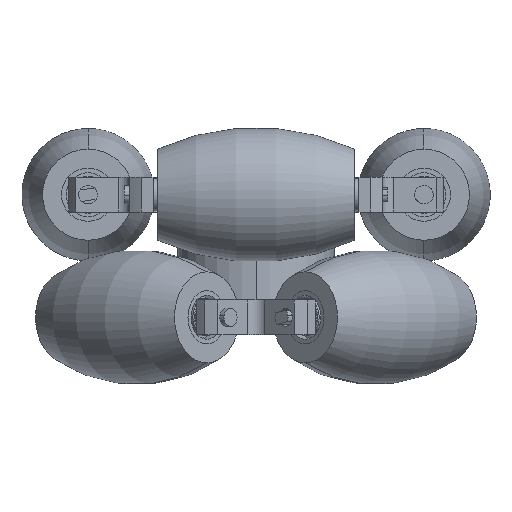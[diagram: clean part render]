
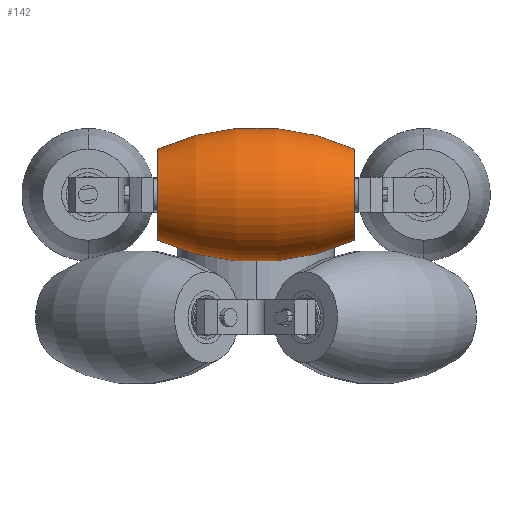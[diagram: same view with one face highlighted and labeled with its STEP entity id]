
A CAD part, front view. The second image highlights one B-rep face of the part: STEP entity #142.
In plain terms, the highlighted toroidal (fillet/blend) face has major radius 72.6 mm and minor radius 101.6 mm.
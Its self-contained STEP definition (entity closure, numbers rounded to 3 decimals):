
#23 = DIRECTION ( 'NONE',  ( -1., 0., 0. ) ) ;
#142 = ADVANCED_FACE ( 'NONE', ( #4589 ), #4369, .T. ) ;
#204 = CIRCLE ( 'NONE', #7567, 19.684 ) ;
#308 = VERTEX_POINT ( 'NONE', #6218 ) ;
#395 = CARTESIAN_POINT ( 'NONE',  ( 42.5, 72.6, -19.684 ) ) ;
#1027 = CARTESIAN_POINT ( 'NONE',  ( 42.5, 72.6, 19.684 ) ) ;
#1076 = CARTESIAN_POINT ( 'NONE',  ( 0., 72.6, 0. ) ) ;
#1777 = AXIS2_PLACEMENT_3D ( 'NONE', #4287, #23, #5018 ) ;
#2215 = AXIS2_PLACEMENT_3D ( 'NONE', #1076, #7501, #8940 ) ;
#2285 = ORIENTED_EDGE ( 'NONE', *, *, #3785, .F. ) ;
#2886 = CARTESIAN_POINT ( 'NONE',  ( 0., 72.6, 72.6 ) ) ;
#2896 = EDGE_LOOP ( 'NONE', ( #8592, #5172, #4738, #2285 ) ) ;
#2898 = AXIS2_PLACEMENT_3D ( 'NONE', #8169, #3877, #8888 ) ;
#3443 = DIRECTION ( 'NONE',  ( -1., 0., 0. ) ) ;
#3624 = DIRECTION ( 'NONE',  ( 0., 0., 1. ) ) ;
#3694 = AXIS2_PLACEMENT_3D ( 'NONE', #2886, #7914, #3624 ) ;
#3785 = EDGE_CURVE ( 'NONE', #4802, #8542, #7334, .T. ) ;
#3877 = DIRECTION ( 'NONE',  ( 0., -1., 0. ) ) ;
#4044 = EDGE_CURVE ( 'NONE', #8542, #308, #7673, .T. ) ;
#4101 = EDGE_CURVE ( 'NONE', #6390, #308, #5539, .T. ) ;
#4287 = CARTESIAN_POINT ( 'NONE',  ( -42.5, 72.6, 0. ) ) ;
#4369 = TOROIDAL_SURFACE ( 'NONE', #2215, -72.6, 101.6 ) ;
#4589 = FACE_OUTER_BOUND ( 'NONE', #2896, .T. ) ;
#4664 = CARTESIAN_POINT ( 'NONE',  ( -42.5, 72.6, 19.684 ) ) ;
#4738 = ORIENTED_EDGE ( 'NONE', *, *, #4044, .F. ) ;
#4802 = VERTEX_POINT ( 'NONE', #1027 ) ;
#5018 = DIRECTION ( 'NONE',  ( 0., 0., 1. ) ) ;
#5172 = ORIENTED_EDGE ( 'NONE', *, *, #4101, .T. ) ;
#5539 = CIRCLE ( 'NONE', #3694, 101.6 ) ;
#6218 = CARTESIAN_POINT ( 'NONE',  ( -42.5, 72.6, -19.684 ) ) ;
#6390 = VERTEX_POINT ( 'NONE', #395 ) ;
#7297 = EDGE_CURVE ( 'NONE', #4802, #6390, #204, .T. ) ;
#7334 = CIRCLE ( 'NONE', #2898, 101.6 ) ;
#7501 = DIRECTION ( 'NONE',  ( -1., 0., 0. ) ) ;
#7567 = AXIS2_PLACEMENT_3D ( 'NONE', #7752, #3443, #8466 ) ;
#7673 = CIRCLE ( 'NONE', #1777, 19.684 ) ;
#7752 = CARTESIAN_POINT ( 'NONE',  ( 42.5, 72.6, 0. ) ) ;
#7914 = DIRECTION ( 'NONE',  ( 0., 1., 0. ) ) ;
#8169 = CARTESIAN_POINT ( 'NONE',  ( 0., 72.6, -72.6 ) ) ;
#8466 = DIRECTION ( 'NONE',  ( 0., 0., 1. ) ) ;
#8542 = VERTEX_POINT ( 'NONE', #4664 ) ;
#8592 = ORIENTED_EDGE ( 'NONE', *, *, #7297, .T. ) ;
#8888 = DIRECTION ( 'NONE',  ( 0., 0., -1. ) ) ;
#8940 = DIRECTION ( 'NONE',  ( 0., 0., 1. ) ) ;
